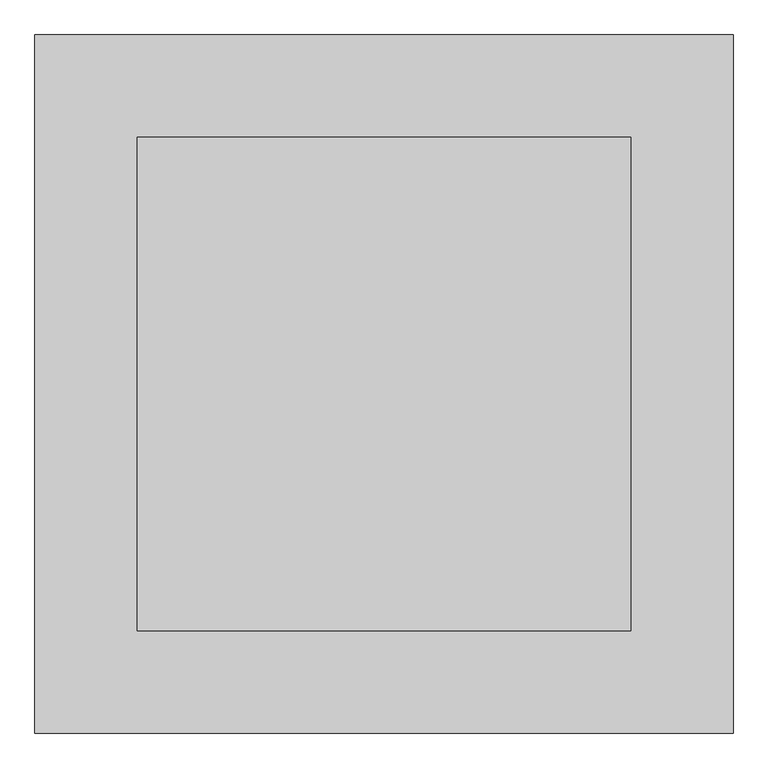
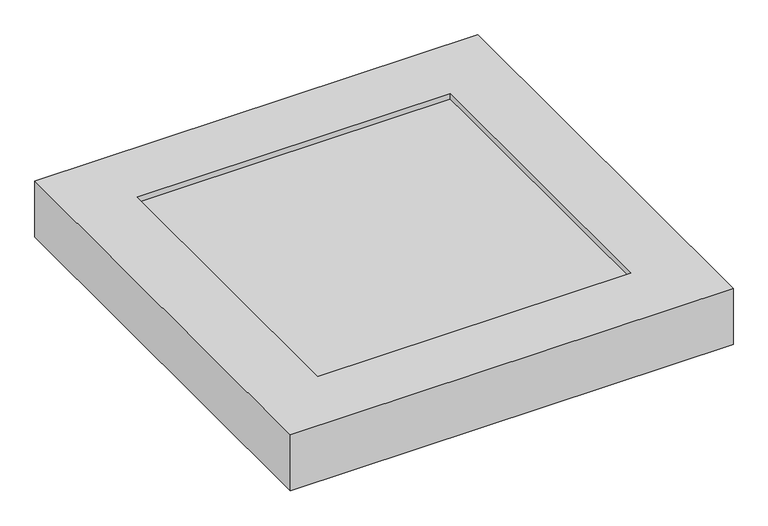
"""IFC4 building model written with IfcOpenShell, lengths in millimetres: furniture geometry, Sandkasten : Sandkasten."""

from ifc_helpers import new_model, si_unit, frame, origin, origin_with_axes, place, context, project, spatial, polyline, outline, extrude, source, transform, mapped, element, save


def furniture_ca1d1933(model_context):
    return source(origin(), model_context, "Body", "SweptSolid", [
        extrude(outline(polyline([(530.0, 530.0), (530.0, -530.0), (-530.0, -530.0), (-530.0, 530.0), (530.0, 530.0)])), frame((0.0, 0.0, 20.0), z_axis=(0.0, 0.0, 1.0), x_axis=(1.0, 0.0, 0.0)), (0.0, 0.0, 1.0), 160.0),
        extrude(outline(polyline([(530.0, 530.0), (530.0, -530.0), (-530.0, -530.0), (-530.0, 530.0), (530.0, 530.0)])), origin_with_axes(), (0.0, 0.0, 1.0), 20.0),
        extrude(outline(polyline([(750.0, 750.0), (750.0, -750.0), (-750.0, -750.0), (-750.0, 750.0), (750.0, 750.0)]), holes=[polyline([(-530.0, 530.0), (-530.0, -530.0), (530.0, -530.0), (530.0, 530.0), (-530.0, 530.0)])]), origin_with_axes(), (0.0, 0.0, 1.0), 200.0),
    ])


if __name__ == "__main__":
    model = new_model("IFC4")
    model_context = context("Model", 3, world=origin())
    ifc_project = project(units=[si_unit("LENGTHUNIT", "METRE", prefix="MILLI")], contexts=[model_context])
    site = spatial("IfcSite", under=ifc_project)
    building = spatial("IfcBuilding", under=site)
    placement = place(None, origin())
    furniture_shape = furniture_ca1d1933(model_context)
    element("IfcFurniture", 1, ObjectType="Sandkasten : Sandkasten", at=placement, inside=building, context=model_context, shape_type="MappedRepresentation", body=[
        mapped(furniture_shape, transform((0.0, 0.0, 0.0), x_axis=(1.0, 0.0, 0.0), y_axis=(0.0, 1.0, 0.0), z_axis=(0.0, 0.0, 1.0))),
    ])
    save(model, "model.ifc")
